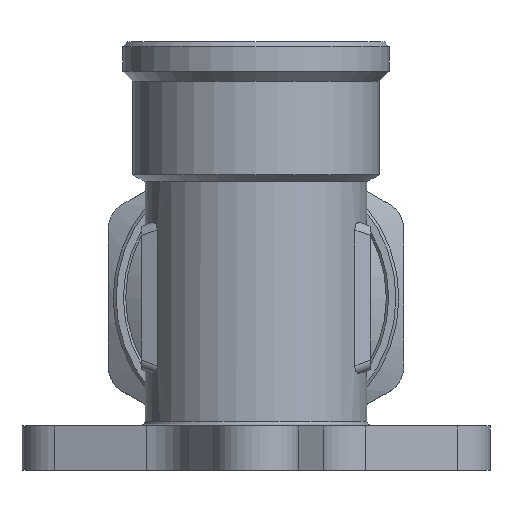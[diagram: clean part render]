
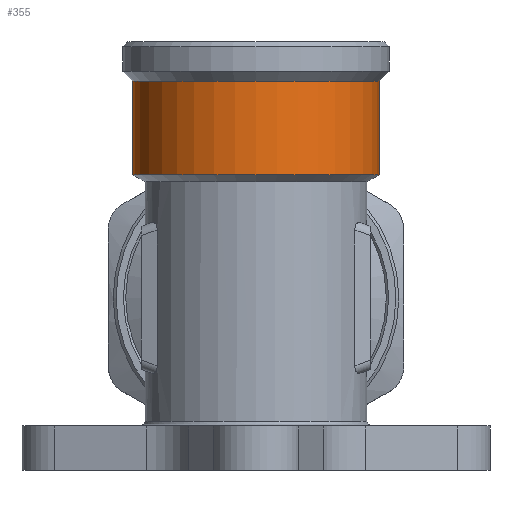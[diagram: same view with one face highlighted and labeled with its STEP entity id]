
A CAD part, front view. The second image highlights one B-rep face of the part: STEP entity #355.
In plain terms, the highlighted cylindrical face has radius 12.5 mm (diameter 25 mm), a full revolution.
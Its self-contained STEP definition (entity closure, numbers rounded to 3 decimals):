
#355=ADVANCED_FACE('',(#2904,#2906),#2908,.T.);
#2904=FACE_OUTER_BOUND('',#2905,.T.);
#2905=EDGE_LOOP('',(#5994));
#2906=FACE_OUTER_BOUND('',#2907,.T.);
#2907=EDGE_LOOP('',(#5995));
#2908=CYLINDRICAL_SURFACE('',#2909,12.5);
#2909=AXIS2_PLACEMENT_3D('',#2910,#2911,#2912);
#2910=CARTESIAN_POINT('',(0.,0.,12.5));
#2911=DIRECTION('',(0.,0.,1.));
#2912=DIRECTION('',(0.,1.,0.));
#5994=ORIENTED_EDGE('',*,*,#7848,.F.);
#5995=ORIENTED_EDGE('',*,*,#7702,.F.);
#7702=EDGE_CURVE('',#9416,#9416,#9417,.F.);
#7848=EDGE_CURVE('',#9668,#9668,#9669,.T.);
#9416=VERTEX_POINT('',#14781);
#9417=CIRCLE('',#14782,12.5);
#9668=VERTEX_POINT('',#15345);
#9669=CIRCLE('',#15346,12.5);
#14781=CARTESIAN_POINT('',(0.,12.5,12.5));
#14782=AXIS2_PLACEMENT_3D('',#14783,#14784,#14785);
#14783=CARTESIAN_POINT('',(0.,0.,12.5));
#14784=DIRECTION('',(0.,0.,1.));
#14785=DIRECTION('',(0.,1.,0.));
#15345=CARTESIAN_POINT('',(0.,12.5,22.));
#15346=AXIS2_PLACEMENT_3D('',#15347,#15348,#15349);
#15347=CARTESIAN_POINT('',(0.,0.,22.));
#15348=DIRECTION('',(0.,0.,1.));
#15349=DIRECTION('',(0.,1.,0.));
